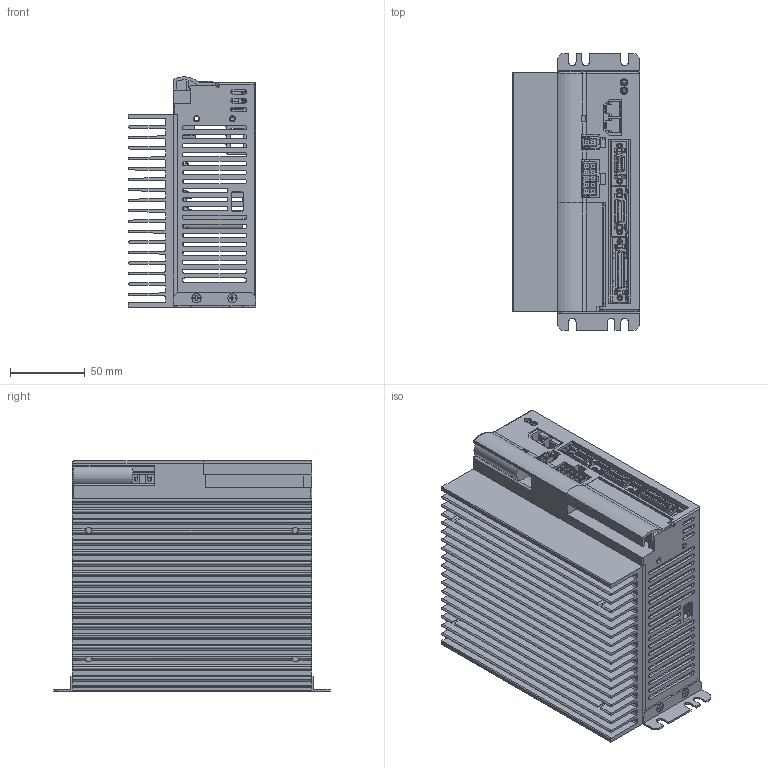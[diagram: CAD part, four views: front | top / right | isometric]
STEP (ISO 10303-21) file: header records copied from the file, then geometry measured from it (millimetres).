
FILE_DESCRIPTION( (''), '2;1');
FILE_NAME ('CA25-M40M80-_XC_3D.stp','2016-05-25T11:43:38',(''),(''),'spGate 11.3.10','spGate','');
FILE_SCHEMA (('AUTOMOTIVE_DESIGN'));
Length unit declared in the file: millimetre
Products named in the file (221): Assembly; CA25-M40M80-_XC_3D-prt0; CA25-M40M80-_XC_3D-prt1; CA25-M40M80-_XC_3D-prt2; CA25-M40M80-_XC_3D-prt3; CA25-M40M80-_XC_3D-prt4; CA25-M40M80-_XC_3D-prt5; CA25-M40M80-_XC_3D-prt6; CA25-M40M80-_XC_3D-prt7; CA25-M40M80-_XC_3D-prt8; CA25-M40M80-_XC_3D-prt9; CA25-M40M80-_XC_3D-prt10; CA25-M40M80-_XC_3D-prt11; CA25-M40M80-_XC_3D-prt12; CA25-M40M80-_XC_3D-prt13; CA25-M40M80-_XC_3D-prt14; CA25-M40M80-_XC_3D-prt15; CA25-M40M80-_XC_3D-prt16; CA25-M40M80-_XC_3D-prt17; CA25-M40M80-_XC_3D-prt18; CA25-M40M80-_XC_3D-prt19; CA25-M40M80-_XC_3D-prt20; CA25-M40M80-_XC_3D-prt21; CA25-M40M80-_XC_3D-prt22; CA25-M40M80-_XC_3D-prt23; CA25-M40M80-_XC_3D-prt24; CA25-M40M80-_XC_3D-prt25; CA25-M40M80-_XC_3D-prt26; CA25-M40M80-_XC_3D-prt27; CA25-M40M80-_XC_3D-prt28; CA25-M40M80-_XC_3D-prt29; CA25-M40M80-_XC_3D-prt30; CA25-M40M80-_XC_3D-prt31; CA25-M40M80-_XC_3D-prt32; CA25-M40M80-_XC_3D-prt33; CA25-M40M80-_XC_3D-prt34; CA25-M40M80-_XC_3D-prt35; CA25-M40M80-_XC_3D-prt36; CA25-M40M80-_XC_3D-prt37; CA25-M40M80-_XC_3D-prt38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
Assembly tree (220 placements, depth 2):
  Assembly
    CA25-M40M80-_XC_3D-prt0
    CA25-M40M80-_XC_3D-prt1
    CA25-M40M80-_XC_3D-prt2
    CA25-M40M80-_XC_3D-prt3
    CA25-M40M80-_XC_3D-prt4
    CA25-M40M80-_XC_3D-prt5
    CA25-M40M80-_XC_3D-prt6
    CA25-M40M80-_XC_3D-prt7
    CA25-M40M80-_XC_3D-prt8
    CA25-M40M80-_XC_3D-prt9
    CA25-M40M80-_XC_3D-prt10
    CA25-M40M80-_XC_3D-prt11
    CA25-M40M80-_XC_3D-prt12
    CA25-M40M80-_XC_3D-prt13
    CA25-M40M80-_XC_3D-prt14
    CA25-M40M80-_XC_3D-prt15
    CA25-M40M80-_XC_3D-prt16
    CA25-M40M80-_XC_3D-prt17
    CA25-M40M80-_XC_3D-prt18
    CA25-M40M80-_XC_3D-prt19
    CA25-M40M80-_XC_3D-prt20
    CA25-M40M80-_XC_3D-prt21
    CA25-M40M80-_XC_3D-prt22
    CA25-M40M80-_XC_3D-prt23
    CA25-M40M80-_XC_3D-prt24
    CA25-M40M80-_XC_3D-prt25
    CA25-M40M80-_XC_3D-prt26
    CA25-M40M80-_XC_3D-prt27
    CA25-M40M80-_XC_3D-prt28
    CA25-M40M80-_XC_3D-prt29
    CA25-M40M80-_XC_3D-prt30
    CA25-M40M80-_XC_3D-prt31
    CA25-M40M80-_XC_3D-prt32
    CA25-M40M80-_XC_3D-prt33
    CA25-M40M80-_XC_3D-prt34
    CA25-M40M80-_XC_3D-prt35
    CA25-M40M80-_XC_3D-prt36
    CA25-M40M80-_XC_3D-prt37
    CA25-M40M80-_XC_3D-prt38
    CA25-M40M80-_XC_3D-prt39
    CA25-M40M80-_XC_3D-prt40
    CA25-M40M80-_XC_3D-prt41
    CA25-M40M80-_XC_3D-prt42
    CA25-M40M80-_XC_3D-prt43
    CA25-M40M80-_XC_3D-prt44
    CA25-M40M80-_XC_3D-prt45
    CA25-M40M80-_XC_3D-prt46
    CA25-M40M80-_XC_3D-prt47
    CA25-M40M80-_XC_3D-prt48
    CA25-M40M80-_XC_3D-prt49
    CA25-M40M80-_XC_3D-prt50
    CA25-M40M80-_XC_3D-prt51
    CA25-M40M80-_XC_3D-prt52
    CA25-M40M80-_XC_3D-prt53
    CA25-M40M80-_XC_3D-prt54
    CA25-M40M80-_XC_3D-prt55
    CA25-M40M80-_XC_3D-prt56
    CA25-M40M80-_XC_3D-prt57
    CA25-M40M80-_XC_3D-prt58
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Bounding box: 85 x 185 x 153.99 mm (x, y, z)
Volume: 468409.1 mm3; surface area: 406850.4 mm2
Topology: 46 solids, 48 shells, 4062 faces, 11411 edges, 7804 vertices
Faces by surface type: plane 3146, cylinder 808, bspline 96, sphere 12
Entity records: 230155 total; most frequent: CARTESIAN_POINT 30969, ORIENTED_EDGE 22416, DIRECTION 21176, COLOUR_RGB 15495, PRESENTATION_STYLE_ASSIGNMENT 15495, STYLED_ITEM 15495, DRAUGHTING_PRE_DEFINED_CURVE_FONT 11385, CURVE_STYLE 11385
